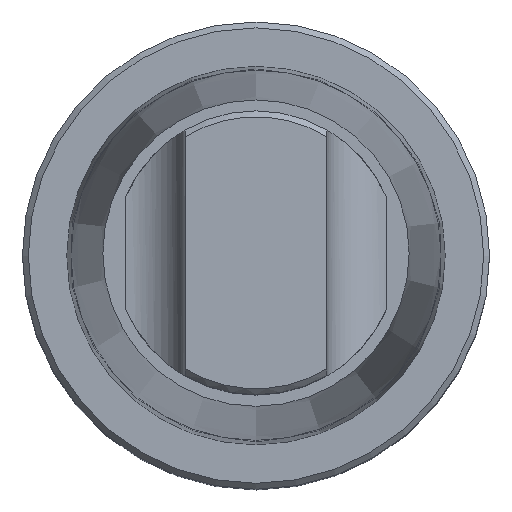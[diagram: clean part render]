
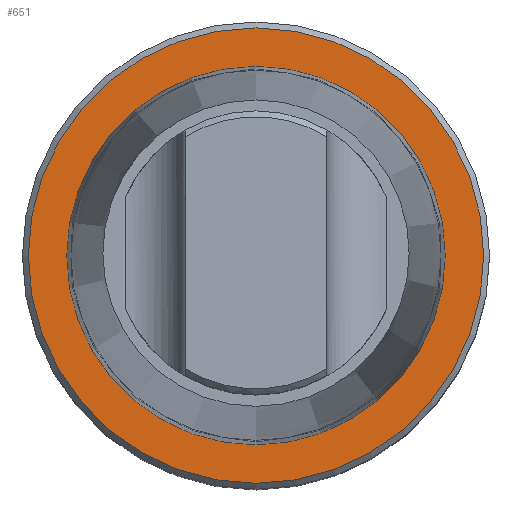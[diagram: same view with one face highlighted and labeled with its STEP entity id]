
A CAD part, top view. The second image highlights one B-rep face of the part: STEP entity #651.
In plain terms, the highlighted planar face has unit normal (0, 0, 1).
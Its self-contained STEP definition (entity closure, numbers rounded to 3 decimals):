
#19=FACE_BOUND('',#217,.T.);
#32=PLANE('',#734);
#171=FACE_OUTER_BOUND('',#216,.T.);
#216=EDGE_LOOP('',(#511));
#217=EDGE_LOOP('',(#512));
#270=CIRCLE('',#733,19.25);
#271=CIRCLE('',#735,15.5);
#322=VERTEX_POINT('',#1345);
#323=VERTEX_POINT('',#1349);
#394=EDGE_CURVE('',#322,#322,#270,.T.);
#396=EDGE_CURVE('',#323,#323,#271,.T.);
#511=ORIENTED_EDGE('',*,*,#394,.F.);
#512=ORIENTED_EDGE('',*,*,#396,.F.);
#651=ADVANCED_FACE('',(#171,#19),#32,.T.);
#733=AXIS2_PLACEMENT_3D('',#1346,#850,#851);
#734=AXIS2_PLACEMENT_3D('',#1348,#853,#854);
#735=AXIS2_PLACEMENT_3D('',#1350,#855,#856);
#850=DIRECTION('center_axis',(0.,0.,-1.));
#851=DIRECTION('ref_axis',(0.,-1.,0.));
#853=DIRECTION('center_axis',(0.,0.,1.));
#854=DIRECTION('ref_axis',(1.,0.,0.));
#855=DIRECTION('center_axis',(0.,0.,1.));
#856=DIRECTION('ref_axis',(1.,0.,0.));
#1345=CARTESIAN_POINT('',(0.,19.25,-136.5));
#1346=CARTESIAN_POINT('Origin',(0.,0.,-136.5));
#1348=CARTESIAN_POINT('Origin',(0.,15.5,-136.5));
#1349=CARTESIAN_POINT('',(0.,-15.5,-136.5));
#1350=CARTESIAN_POINT('Origin',(0.,0.,-136.5));
